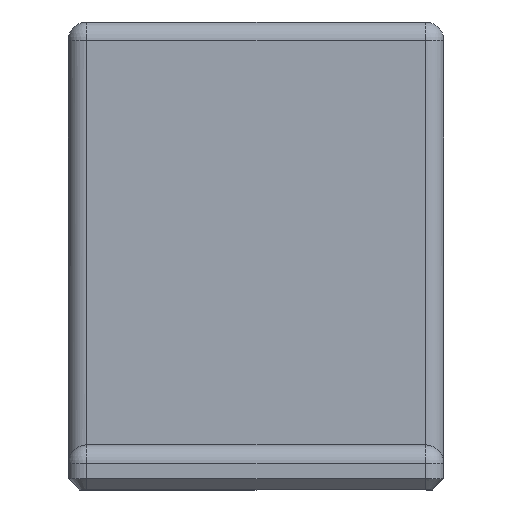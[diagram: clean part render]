
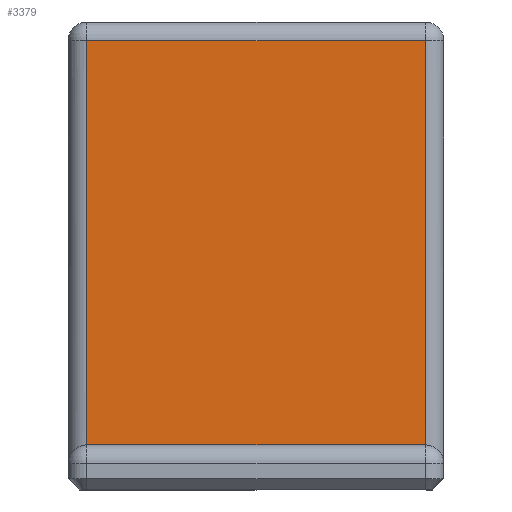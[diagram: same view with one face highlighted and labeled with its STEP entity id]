
A CAD part, left-side view. The second image highlights one B-rep face of the part: STEP entity #3379.
In plain terms, the highlighted planar face has unit normal (-1, 0, 0).
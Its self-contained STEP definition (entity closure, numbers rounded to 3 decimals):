
#887 = CYLINDRICAL_SURFACE('',#888,1.);
#888 = AXIS2_PLACEMENT_3D('',#889,#890,#891);
#889 = CARTESIAN_POINT('',(-32.4,1.,2.4));
#890 = DIRECTION('',(0.,0.,1.));
#891 = DIRECTION('',(-1.,-0.,0.));
#1438 = CYLINDRICAL_SURFACE('',#1439,1.);
#1439 = AXIS2_PLACEMENT_3D('',#1440,#1441,#1442);
#1440 = CARTESIAN_POINT('',(-32.4,19.,2.4));
#1441 = DIRECTION('',(0.,0.,1.));
#1442 = DIRECTION('',(-1.,-0.,0.));
#1909 = VERTEX_POINT('',#1910);
#1910 = CARTESIAN_POINT('',(-33.4,1.,2.4));
#1926 = PLANE('',#1927);
#1927 = AXIS2_PLACEMENT_3D('',#1928,#1929,#1930);
#1928 = CARTESIAN_POINT('',(-39.4,0.,2.4));
#1929 = DIRECTION('',(0.,0.,1.));
#1930 = DIRECTION('',(1.,0.,-0.));
#1994 = EDGE_CURVE('',#1909,#1995,#1997,.T.);
#1995 = VERTEX_POINT('',#1996);
#1996 = CARTESIAN_POINT('',(-33.4,1.,23.9));
#1997 = SURFACE_CURVE('',#1998,(#2002,#2009),.PCURVE_S1.);
#1998 = LINE('',#1999,#2000);
#1999 = CARTESIAN_POINT('',(-33.4,1.,2.4));
#2000 = VECTOR('',#2001,1.);
#2001 = DIRECTION('',(0.,0.,1.));
#2002 = PCURVE('',#887,#2003);
#2003 = DEFINITIONAL_REPRESENTATION('',(#2004),#2008);
#2004 = LINE('',#2005,#2006);
#2005 = CARTESIAN_POINT('',(0.,0.));
#2006 = VECTOR('',#2007,1.);
#2007 = DIRECTION('',(0.,1.));
#2008 = ( GEOMETRIC_REPRESENTATION_CONTEXT(2) 
PARAMETRIC_REPRESENTATION_CONTEXT() REPRESENTATION_CONTEXT('2D SPACE',''
  ) );
#2009 = PCURVE('',#2010,#2015);
#2010 = PLANE('',#2011);
#2011 = AXIS2_PLACEMENT_3D('',#2012,#2013,#2014);
#2012 = CARTESIAN_POINT('',(-33.4,0.,0.));
#2013 = DIRECTION('',(1.,0.,-0.));
#2014 = DIRECTION('',(0.,0.,1.));
#2015 = DEFINITIONAL_REPRESENTATION('',(#2016),#2020);
#2016 = LINE('',#2017,#2018);
#2017 = CARTESIAN_POINT('',(2.4,-1.));
#2018 = VECTOR('',#2019,1.);
#2019 = DIRECTION('',(1.,0.));
#2020 = ( GEOMETRIC_REPRESENTATION_CONTEXT(2) 
PARAMETRIC_REPRESENTATION_CONTEXT() REPRESENTATION_CONTEXT('2D SPACE',''
  ) );
#2643 = VERTEX_POINT('',#2644);
#2644 = CARTESIAN_POINT('',(-33.4,19.,2.4));
#2700 = EDGE_CURVE('',#2643,#2701,#2703,.T.);
#2701 = VERTEX_POINT('',#2702);
#2702 = CARTESIAN_POINT('',(-33.4,19.,23.9));
#2703 = SURFACE_CURVE('',#2704,(#2708,#2715),.PCURVE_S1.);
#2704 = LINE('',#2705,#2706);
#2705 = CARTESIAN_POINT('',(-33.4,19.,2.4));
#2706 = VECTOR('',#2707,1.);
#2707 = DIRECTION('',(0.,0.,1.));
#2708 = PCURVE('',#1438,#2709);
#2709 = DEFINITIONAL_REPRESENTATION('',(#2710),#2714);
#2710 = LINE('',#2711,#2712);
#2711 = CARTESIAN_POINT('',(-0.,0.));
#2712 = VECTOR('',#2713,1.);
#2713 = DIRECTION('',(-0.,1.));
#2714 = ( GEOMETRIC_REPRESENTATION_CONTEXT(2) 
PARAMETRIC_REPRESENTATION_CONTEXT() REPRESENTATION_CONTEXT('2D SPACE',''
  ) );
#2715 = PCURVE('',#2010,#2716);
#2716 = DEFINITIONAL_REPRESENTATION('',(#2717),#2721);
#2717 = LINE('',#2718,#2719);
#2718 = CARTESIAN_POINT('',(2.4,-19.));
#2719 = VECTOR('',#2720,1.);
#2720 = DIRECTION('',(1.,0.));
#2721 = ( GEOMETRIC_REPRESENTATION_CONTEXT(2) 
PARAMETRIC_REPRESENTATION_CONTEXT() REPRESENTATION_CONTEXT('2D SPACE',''
  ) );
#3246 = EDGE_CURVE('',#1909,#2643,#3247,.T.);
#3247 = SURFACE_CURVE('',#3248,(#3252,#3258),.PCURVE_S1.);
#3248 = LINE('',#3249,#3250);
#3249 = CARTESIAN_POINT('',(-33.4,0.,2.4));
#3250 = VECTOR('',#3251,1.);
#3251 = DIRECTION('',(-0.,1.,0.));
#3252 = PCURVE('',#1926,#3253);
#3253 = DEFINITIONAL_REPRESENTATION('',(#3254),#3257);
#3254 = B_SPLINE_CURVE_WITH_KNOTS('',1,(#3255,#3256),.UNSPECIFIED.,.F.,
  .F.,(2,2),(0.,20.),.PIECEWISE_BEZIER_KNOTS.);
#3255 = CARTESIAN_POINT('',(6.,0.));
#3256 = CARTESIAN_POINT('',(6.,20.));
#3257 = ( GEOMETRIC_REPRESENTATION_CONTEXT(2) 
PARAMETRIC_REPRESENTATION_CONTEXT() REPRESENTATION_CONTEXT('2D SPACE',''
  ) );
#3258 = PCURVE('',#2010,#3259);
#3259 = DEFINITIONAL_REPRESENTATION('',(#3260),#3263);
#3260 = B_SPLINE_CURVE_WITH_KNOTS('',1,(#3261,#3262),.UNSPECIFIED.,.F.,
  .F.,(2,2),(0.,20.),.PIECEWISE_BEZIER_KNOTS.);
#3261 = CARTESIAN_POINT('',(2.4,0.));
#3262 = CARTESIAN_POINT('',(2.4,-20.));
#3263 = ( GEOMETRIC_REPRESENTATION_CONTEXT(2) 
PARAMETRIC_REPRESENTATION_CONTEXT() REPRESENTATION_CONTEXT('2D SPACE',''
  ) );
#3379 = ADVANCED_FACE('',(#3380),#2010,.F.);
#3380 = FACE_BOUND('',#3381,.F.);
#3381 = EDGE_LOOP('',(#3382,#3383,#3384,#3385));
#3382 = ORIENTED_EDGE('',*,*,#1994,.F.);
#3383 = ORIENTED_EDGE('',*,*,#3246,.T.);
#3384 = ORIENTED_EDGE('',*,*,#2700,.T.);
#3385 = ORIENTED_EDGE('',*,*,#3386,.F.);
#3386 = EDGE_CURVE('',#1995,#2701,#3387,.T.);
#3387 = SURFACE_CURVE('',#3388,(#3392,#3399),.PCURVE_S1.);
#3388 = LINE('',#3389,#3390);
#3389 = CARTESIAN_POINT('',(-33.4,1.,23.9));
#3390 = VECTOR('',#3391,1.);
#3391 = DIRECTION('',(-0.,1.,0.));
#3392 = PCURVE('',#2010,#3393);
#3393 = DEFINITIONAL_REPRESENTATION('',(#3394),#3398);
#3394 = LINE('',#3395,#3396);
#3395 = CARTESIAN_POINT('',(23.9,-1.));
#3396 = VECTOR('',#3397,1.);
#3397 = DIRECTION('',(0.,-1.));
#3398 = ( GEOMETRIC_REPRESENTATION_CONTEXT(2) 
PARAMETRIC_REPRESENTATION_CONTEXT() REPRESENTATION_CONTEXT('2D SPACE',''
  ) );
#3399 = PCURVE('',#3400,#3405);
#3400 = CYLINDRICAL_SURFACE('',#3401,1.);
#3401 = AXIS2_PLACEMENT_3D('',#3402,#3403,#3404);
#3402 = CARTESIAN_POINT('',(-32.4,1.,23.9));
#3403 = DIRECTION('',(-0.,1.,0.));
#3404 = DIRECTION('',(-1.,-0.,0.));
#3405 = DEFINITIONAL_REPRESENTATION('',(#3406),#3410);
#3406 = LINE('',#3407,#3408);
#3407 = CARTESIAN_POINT('',(0.,0.));
#3408 = VECTOR('',#3409,1.);
#3409 = DIRECTION('',(0.,1.));
#3410 = ( GEOMETRIC_REPRESENTATION_CONTEXT(2) 
PARAMETRIC_REPRESENTATION_CONTEXT() REPRESENTATION_CONTEXT('2D SPACE',''
  ) );
